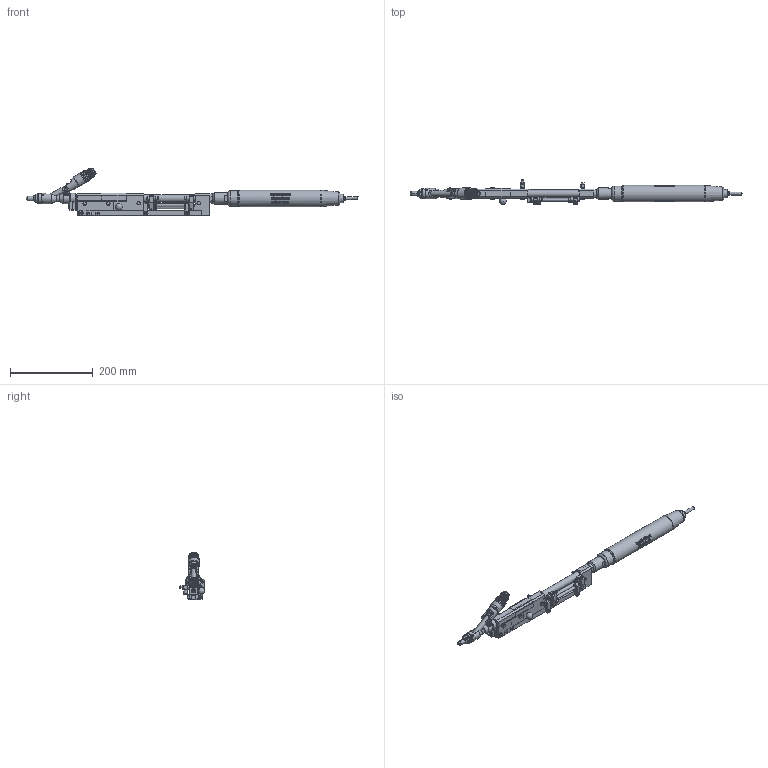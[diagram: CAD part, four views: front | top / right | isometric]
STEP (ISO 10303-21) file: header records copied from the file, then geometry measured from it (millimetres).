
FILE_DESCRIPTION(/* description */ ('© Copyright 2019 – Urheberrechtshinweis Diese CAD-Daten sind urheberrechtlich geschützt. Das Urheberrecht liegt, soweit nicht ausdrücklich anders gekennzeichnet, bei Stöger Automation GmbH. Bitte fragen Sie uns, falls Sie die CAD-Daten vervielfältigen oder'),/* implementation_level */ '2;1');
FILE_NAME(/* name */ 'H:\00_0 Arbeiten für Marketing\581110\581110.stp',/* time_stamp */ '2020-12-07T09:09:44+01:00',/* author */ ('Stöger Automation GmbH'),/* organization */ ('Stöger Automation GmbH'),/* preprocessor_version */ 'ST-DEVELOPER v17',/* originating_system */ 'Autodesk Inventor 2018',/* authorisation */ '');
FILE_SCHEMA (('CONFIG_CONTROL_DESIGN'));
Products named in the file (1): 581110
Bounding box: 802.12 x 60.1 x 115.26 mm (x, y, z)
Volume: 360380.9 mm3; surface area: 232185.4 mm2
Topology: 7 solids, 8 shells, 3208 faces, 8962 edges, 5946 vertices
Faces by surface type: plane 1666, cylinder 618, bspline 548, cone 300, torus 67, sphere 9
Full cylindrical faces by diameter (mm): 1 x2, 1.5 x3, 2 x1, 2.013 x2, 2.2 x1, 2.459 x3, 2.5 x1, 3 x5, 3.04 x3, 3.2 x3, 3.242 x11, 3.4 x2, 3.8 x2, 4 x7, 4.1 x1, 4.134 x14, 4.3 x2, 4.45 x2, 4.5 x2, 4.917 x1, 5 x7, 5.1 x3, 5.5 x8, 5.6 x3, 6 x9, 6.1 x1, 6.2 x1, 6.5 x6, 7 x11, 7.1 x1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
Entity records: 259799 total; most frequent: CARTESIAN_POINT 179951, ORIENTED_EDGE 17856, DIRECTION 13841, EDGE_CURVE 8928, VERTEX_POINT 5945, AXIS2_PLACEMENT_3D 4962, LINE 3917, VECTOR 3917
